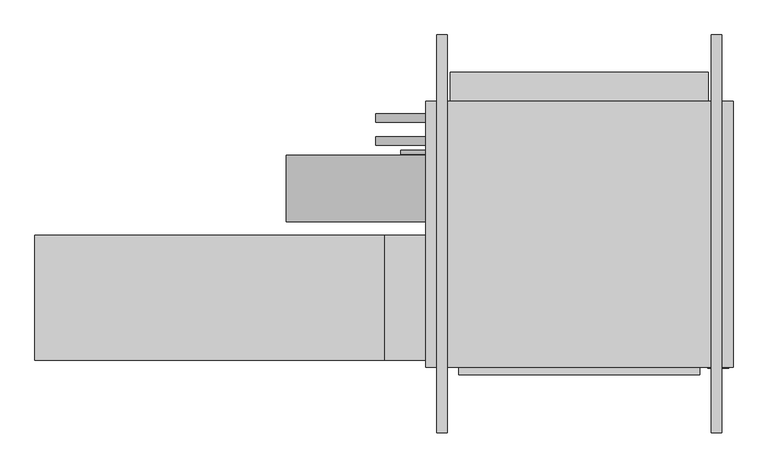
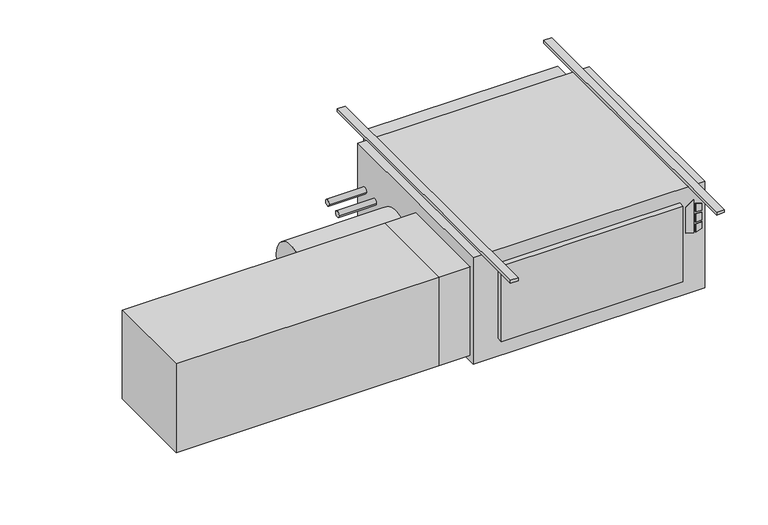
"""IFC4 building model written with IfcOpenShell, lengths in millimetres: proxy geometry."""

from ifc_helpers import new_model, si_unit, point, frame, frame_2d, origin, origin_with_axes, place, context, project, spatial, polyline, circle_curve, trimmed, segment, composite_curve, outline, extrude, source, transform, mapped, element, save


def mechanical_equipment_ea2074a5(model_context):
    return source(origin(), model_context, "Body", "SweptSolid", [
        extrude(outline(polyline([(-193.2519297, 544.5868862), (-203.2, 576.7602728), (-61.0290756, 576.7602728), (-84.0510817, 544.5868862), (-193.2519297, 544.5868862)])), frame((0.0, -647.7, 0.0), z_axis=(0.0, 1.0, 0.0), x_axis=(0.0, 0.0, 1.0)), (0.0, 0.0, 1.0), 3.175),
        extrude(outline(polyline([(-114.2526443, 583.5186058), (-117.4550368, 609.6), (-88.2261958, 609.6), (-80.1617807, 583.5186058), (-114.2526443, 583.5186058)])), frame((0.0, -647.7, 0.0), z_axis=(0.0, 1.0, 0.0), x_axis=(0.0, 0.0, 1.0)), (0.0, 0.0, 1.0), 3.175),
        extrude(outline(polyline([(-166.1161712, 609.6), (-169.7816721, 583.5186058), (-203.2, 583.5186058), (-194.5657628, 609.6), (-166.1161712, 609.6)])), frame((0.0, -647.7, 0.0), z_axis=(0.0, 1.0, 0.0), x_axis=(0.0, 0.0, 1.0)), (0.0, 0.0, 1.0), 3.175),
        extrude(outline(polyline([(-126.8010097, 609.6), (-124.5191834, 583.5186058), (-160.4567319, 583.5186058), (-157.7154669, 609.6), (-126.8010097, 609.6)])), frame((0.0, -647.7, 0.0), z_axis=(0.0, 1.0, 0.0), x_axis=(0.0, 0.0, 1.0)), (0.0, 0.0, 1.0), 3.175),
        extrude(outline(polyline([(520.7, -666.877), (-215.9, -666.877), (-215.9, -644.525), (520.7, -644.525), (520.7, -666.877)])), frame((0.0, 0.0, -381.0), z_axis=(0.0, 0.0, 1.0), x_axis=(1.0, 0.0, 0.0)), (0.0, 0.0, 1.0), 323.85),
        extrude(outline(polyline([(-1511.3, -622.3), (-1511.3, -241.3), (-444.5, -241.3), (-444.5, -622.3), (-1511.3, -622.3)])), frame((0.0, 0.0, -431.8), z_axis=(0.0, 0.0, 1.0), x_axis=(1.0, 0.0, 0.0)), (0.0, 0.0, 1.0), 381.0),
        extrude(outline(polyline([(-317.5, -241.3), (-317.5, -622.3), (-444.5, -622.3), (-444.5, -241.3), (-317.5, -241.3)])), frame((0.0, 0.0, -431.8), z_axis=(0.0, 0.0, 1.0), x_axis=(1.0, 0.0, 0.0)), (0.0, 0.0, 1.0), 381.0),
        extrude(outline(composite_curve([segment(trimmed(circle_curve(frame_2d((-98.4896516, -228.6360165)), 101.6), [point((-200.0896516, -228.6360165))], [point((3.1103484, -228.6360165))], False, "CARTESIAN"), True, "CONTINUOUS"), segment(trimmed(circle_curve(frame_2d((-98.4896516, -228.6360165)), 101.6), [point((3.1103484, -228.6360165))], [point((-200.0896516, -228.6360165))], False, "CARTESIAN"), True, "CONTINUOUS")], self_intersect=False)), frame((-742.95, 0.0, 0.0), z_axis=(1.0, 0.0, 0.0), x_axis=(0.0, 1.0, 0.0)), (0.0, 0.0, 1.0), 425.45),
        extrude(outline(composite_curve([segment(trimmed(circle_curve(frame_2d((47.625, -177.8)), 12.7), [point((34.925, -177.8))], [point((60.325, -177.8))], False, "CARTESIAN"), True, "CONTINUOUS"), segment(trimmed(circle_curve(frame_2d((47.625, -177.8)), 12.7), [point((60.325, -177.8))], [point((34.925, -177.8))], False, "CARTESIAN"), True, "CONTINUOUS")], self_intersect=False)), frame((-469.9, 0.0, 0.0), z_axis=(1.0, 0.0, 0.0), x_axis=(0.0, 1.0, 0.0)), (0.0, 0.0, 1.0), 152.4),
        extrude(outline(composite_curve([segment(trimmed(circle_curve(frame_2d((117.475, -171.45)), 12.7), [point((104.775, -171.45))], [point((130.175, -171.45))], False, "CARTESIAN"), True, "CONTINUOUS"), segment(trimmed(circle_curve(frame_2d((117.475, -171.45)), 12.7), [point((130.175, -171.45))], [point((104.775, -171.45))], False, "CARTESIAN"), True, "CONTINUOUS")], self_intersect=False)), frame((-469.9, 0.0, 0.0), z_axis=(1.0, 0.0, 0.0), x_axis=(0.0, 1.0, 0.0)), (0.0, 0.0, 1.0), 152.4),
        extrude(outline(composite_curve([segment(trimmed(circle_curve(frame_2d((12.7, -409.575)), 6.35), [point((6.35, -409.575))], [point((19.05, -409.575))], False, "CARTESIAN"), True, "CONTINUOUS"), segment(trimmed(circle_curve(frame_2d((12.7, -409.575)), 6.35), [point((19.05, -409.575))], [point((6.35, -409.575))], False, "CARTESIAN"), True, "CONTINUOUS")], self_intersect=False)), frame((-393.7, 0.0, 0.0), z_axis=(1.0, 0.0, 0.0), x_axis=(0.0, 1.0, 0.0)), (0.0, 0.0, 1.0), 76.2),
        extrude(outline(polyline([(622.3, 168.275), (622.3, -644.525), (-317.5, -644.525), (-317.5, 168.275), (622.3, 168.275)])), frame((0.0, 0.0, -457.2), z_axis=(0.0, 0.0, 1.0), x_axis=(1.0, 0.0, 0.0)), (0.0, 0.0, 1.0), 457.2),
        extrude(outline(polyline([(-241.3, 257.175), (546.1, 257.175), (546.1, 168.275), (-241.3, 168.275), (-241.3, 257.175)])), frame((0.0, 0.0, -381.0), z_axis=(0.0, 0.0, 1.0), x_axis=(1.0, 0.0, 0.0)), (0.0, 0.0, 1.0), 355.6),
        extrude(outline(polyline([(-250.825, 371.475), (-250.825, -844.677), (-282.575, -844.677), (-282.575, 371.475), (-250.825, 371.475)])), origin_with_axes(), (0.0, 0.0, 1.0), 12.7),
        extrude(outline(polyline([(587.375, 371.475), (587.375, -844.677), (555.625, -844.677), (555.625, 371.475), (587.375, 371.475)])), origin_with_axes(), (0.0, 0.0, 1.0), 12.7),
    ])


if __name__ == "__main__":
    model = new_model("IFC4")
    model_context = context("Model", 3, world=origin())
    ifc_project = project(units=[si_unit("LENGTHUNIT", "METRE", prefix="MILLI")], contexts=[model_context])
    site = spatial("IfcSite", under=ifc_project)
    building = spatial("IfcBuilding", under=site)
    placement = place(None, origin())
    mechanical_equipment_shape = mechanical_equipment_ea2074a5(model_context)
    element("IfcBuildingElementProxy", 1, Name="High_Capacity_Horizontal_Cabinet_Fan_Coil_Unit_-_HTY_-_IEC_-_2-Pipe_WO-Attenuator_LH Side_2022 : Size 12 - 277v/60Hz/1Ph - 8/0 Coil - 8\" AirIn", ObjectType="High_Capacity_Horizontal_Cabinet_Fan_Coil_Unit_-_HTY_-_IEC_-_2-Pipe_WO-Attenuator_LH Side_2022 : Size 12 - 277v/60Hz/1Ph - 8/0 Coil - 8\" AirIn", at=placement, inside=building, context=model_context, shape_type="MappedRepresentation", body=[
        mapped(mechanical_equipment_shape, transform((0.0, 0.0, 0.0), x_axis=(1.0, 0.0, 0.0), y_axis=(0.0, 1.0, 0.0), z_axis=(0.0, 0.0, 1.0))),
    ])
    save(model, "model.ifc")
